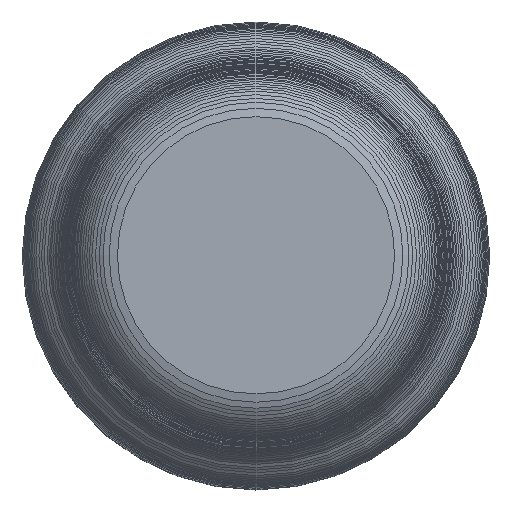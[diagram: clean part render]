
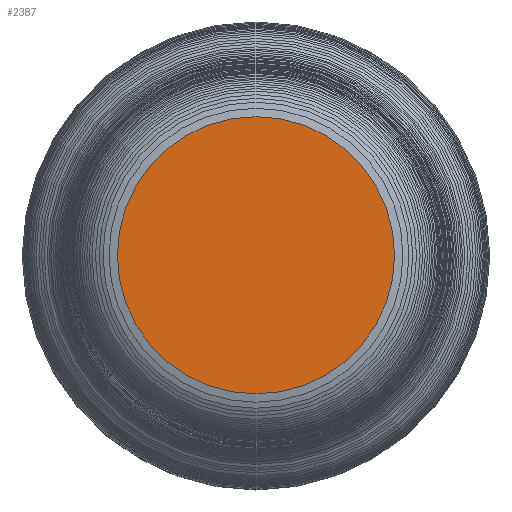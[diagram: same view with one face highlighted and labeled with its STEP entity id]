
A CAD part, top view. The second image highlights one B-rep face of the part: STEP entity #2387.
In plain terms, the highlighted planar face has unit normal (0, 0, 1).
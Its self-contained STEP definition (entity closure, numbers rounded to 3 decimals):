
#2368 = VERTEX_POINT('',#2369);
#2369 = CARTESIAN_POINT('',(15.716,0.,115.5));
#2375 = EDGE_CURVE('',#2368,#2368,#2376,.T.);
#2376 = CIRCLE('',#2377,15.716);
#2377 = AXIS2_PLACEMENT_3D('',#2378,#2379,#2380);
#2378 = CARTESIAN_POINT('',(0.,0.,115.5));
#2379 = DIRECTION('',(0.,0.,1.));
#2380 = DIRECTION('',(1.,0.,-0.));
#2387 = ADVANCED_FACE('',(#2388),#2391,.T.);
#2388 = FACE_BOUND('',#2389,.T.);
#2389 = EDGE_LOOP('',(#2390));
#2390 = ORIENTED_EDGE('',*,*,#2375,.T.);
#2391 = PLANE('',#2392);
#2392 = AXIS2_PLACEMENT_3D('',#2393,#2394,#2395);
#2393 = CARTESIAN_POINT('',(0.,0.,115.5));
#2394 = DIRECTION('',(0.,0.,1.));
#2395 = DIRECTION('',(1.,0.,-0.));
